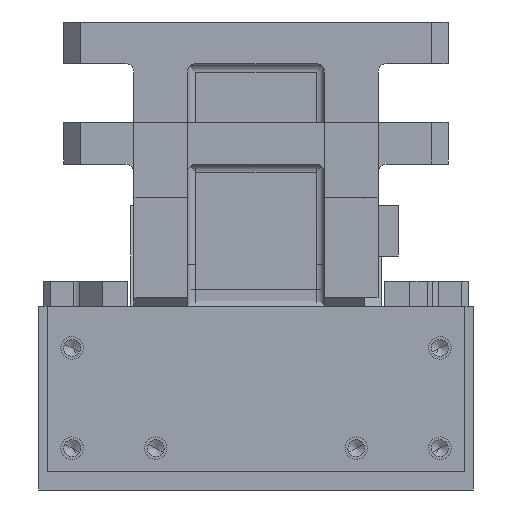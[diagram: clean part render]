
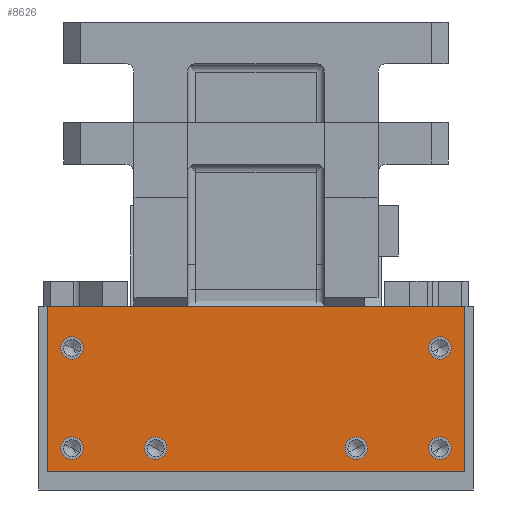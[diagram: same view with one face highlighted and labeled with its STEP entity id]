
A CAD part, left-side view. The second image highlights one B-rep face of the part: STEP entity #8626.
In plain terms, the highlighted planar face has unit normal (-1, 0, 0).
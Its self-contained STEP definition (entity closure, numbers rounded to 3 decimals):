
#6704=CARTESIAN_POINT('Vertex',(-12.,125.,110.)) ;
#6707=CARTESIAN_POINT('Line Origine',(-12.,0.,110.)) ;
#6711=CARTESIAN_POINT('Vertex',(-12.,-125.,110.)) ;
#8475=CARTESIAN_POINT('Vertex',(-12.,65.924,28.236)) ;
#8482=CARTESIAN_POINT('Vertex',(-12.,54.076,21.764)) ;
#8485=CARTESIAN_POINT('Axis2P3D Location',(-12.,60.,25.)) ;
#8497=CARTESIAN_POINT('Axis2P3D Location',(-12.,0.,0.)) ;
#8502=CARTESIAN_POINT('Line Origine',(-12.,125.,60.5)) ;
#8506=CARTESIAN_POINT('Vertex',(-12.,125.,11.)) ;
#8509=CARTESIAN_POINT('Line Origine',(-12.,0.,11.)) ;
#8513=CARTESIAN_POINT('Vertex',(-12.,-125.,11.)) ;
#8516=CARTESIAN_POINT('Line Origine',(-12.,-125.,60.5)) ;
#8527=CARTESIAN_POINT('Axis2P3D Location',(-12.,-110.,25.)) ;
#8531=CARTESIAN_POINT('Vertex',(-12.,-115.924,28.236)) ;
#8533=CARTESIAN_POINT('Vertex',(-12.,-104.076,21.764)) ;
#8536=CARTESIAN_POINT('Axis2P3D Location',(-12.,-110.,25.)) ;
#8545=CARTESIAN_POINT('Axis2P3D Location',(-12.,-110.,85.)) ;
#8549=CARTESIAN_POINT('Vertex',(-12.,-115.924,88.236)) ;
#8551=CARTESIAN_POINT('Vertex',(-12.,-104.076,81.764)) ;
#8554=CARTESIAN_POINT('Axis2P3D Location',(-12.,-110.,85.)) ;
#8563=CARTESIAN_POINT('Axis2P3D Location',(-12.,-60.,25.)) ;
#8567=CARTESIAN_POINT('Vertex',(-12.,-65.924,28.236)) ;
#8569=CARTESIAN_POINT('Vertex',(-12.,-54.076,21.764)) ;
#8572=CARTESIAN_POINT('Axis2P3D Location',(-12.,-60.,25.)) ;
#8581=CARTESIAN_POINT('Axis2P3D Location',(-12.,110.,25.)) ;
#8585=CARTESIAN_POINT('Vertex',(-12.,115.924,28.236)) ;
#8587=CARTESIAN_POINT('Vertex',(-12.,104.076,21.764)) ;
#8590=CARTESIAN_POINT('Axis2P3D Location',(-12.,110.,25.)) ;
#8599=CARTESIAN_POINT('Axis2P3D Location',(-12.,110.,85.)) ;
#8603=CARTESIAN_POINT('Vertex',(-12.,104.076,81.764)) ;
#8605=CARTESIAN_POINT('Vertex',(-12.,115.924,88.236)) ;
#8608=CARTESIAN_POINT('Axis2P3D Location',(-12.,110.,85.)) ;
#8617=CARTESIAN_POINT('Axis2P3D Location',(-12.,60.,25.)) ;
#6709=VECTOR('Line Direction',#6708,1.) ;
#8504=VECTOR('Line Direction',#8503,1.) ;
#8511=VECTOR('Line Direction',#8510,1.) ;
#8518=VECTOR('Line Direction',#8517,1.) ;
#6708=DIRECTION('Vector Direction',(0.,-1.,0.)) ;
#8486=DIRECTION('Axis2P3D Direction',(1.,0.,0.)) ;
#8498=DIRECTION('Axis2P3D Direction',(-1.,-0.,0.)) ;
#8499=DIRECTION('Axis2P3D XDirection',(0.,-1.,0.)) ;
#8503=DIRECTION('Vector Direction',(0.,0.,-1.)) ;
#8510=DIRECTION('Vector Direction',(0.,1.,0.)) ;
#8517=DIRECTION('Vector Direction',(0.,0.,-1.)) ;
#8528=DIRECTION('Axis2P3D Direction',(-1.,-0.,0.)) ;
#8537=DIRECTION('Axis2P3D Direction',(-1.,-0.,0.)) ;
#8546=DIRECTION('Axis2P3D Direction',(-1.,-0.,0.)) ;
#8555=DIRECTION('Axis2P3D Direction',(-1.,-0.,0.)) ;
#8564=DIRECTION('Axis2P3D Direction',(-1.,-0.,0.)) ;
#8573=DIRECTION('Axis2P3D Direction',(-1.,-0.,0.)) ;
#8582=DIRECTION('Axis2P3D Direction',(-1.,-0.,0.)) ;
#8591=DIRECTION('Axis2P3D Direction',(-1.,-0.,0.)) ;
#8600=DIRECTION('Axis2P3D Direction',(-1.,-0.,0.)) ;
#8609=DIRECTION('Axis2P3D Direction',(-1.,-0.,0.)) ;
#8618=DIRECTION('Axis2P3D Direction',(-1.,-0.,0.)) ;
#8487=AXIS2_PLACEMENT_3D('Circle Axis2P3D',#8485,#8486,$) ;
#8500=AXIS2_PLACEMENT_3D('Plane Axis2P3D',#8497,#8498,#8499) ;
#8529=AXIS2_PLACEMENT_3D('Circle Axis2P3D',#8527,#8528,$) ;
#8538=AXIS2_PLACEMENT_3D('Circle Axis2P3D',#8536,#8537,$) ;
#8547=AXIS2_PLACEMENT_3D('Circle Axis2P3D',#8545,#8546,$) ;
#8556=AXIS2_PLACEMENT_3D('Circle Axis2P3D',#8554,#8555,$) ;
#8565=AXIS2_PLACEMENT_3D('Circle Axis2P3D',#8563,#8564,$) ;
#8574=AXIS2_PLACEMENT_3D('Circle Axis2P3D',#8572,#8573,$) ;
#8583=AXIS2_PLACEMENT_3D('Circle Axis2P3D',#8581,#8582,$) ;
#8592=AXIS2_PLACEMENT_3D('Circle Axis2P3D',#8590,#8591,$) ;
#8601=AXIS2_PLACEMENT_3D('Circle Axis2P3D',#8599,#8600,$) ;
#8610=AXIS2_PLACEMENT_3D('Circle Axis2P3D',#8608,#8609,$) ;
#8619=AXIS2_PLACEMENT_3D('Circle Axis2P3D',#8617,#8618,$) ;
#6710=LINE('Line',#6707,#6709) ;
#8505=LINE('Line',#8502,#8504) ;
#8512=LINE('Line',#8509,#8511) ;
#8519=LINE('Line',#8516,#8518) ;
#8488=CIRCLE('generated circle',#8487,6.75) ;
#8530=CIRCLE('generated circle',#8529,6.75) ;
#8539=CIRCLE('generated circle',#8538,6.75) ;
#8548=CIRCLE('generated circle',#8547,6.75) ;
#8557=CIRCLE('generated circle',#8556,6.75) ;
#8566=CIRCLE('generated circle',#8565,6.75) ;
#8575=CIRCLE('generated circle',#8574,6.75) ;
#8584=CIRCLE('generated circle',#8583,6.75) ;
#8593=CIRCLE('generated circle',#8592,6.75) ;
#8602=CIRCLE('generated circle',#8601,6.75) ;
#8611=CIRCLE('generated circle',#8610,6.75) ;
#8620=CIRCLE('generated circle',#8619,6.75) ;
#8501=PLANE('',#8500) ;
#8544=FACE_BOUND('',#8541,.T.) ;
#8562=FACE_BOUND('',#8559,.T.) ;
#8580=FACE_BOUND('',#8577,.T.) ;
#8598=FACE_BOUND('',#8595,.T.) ;
#8616=FACE_BOUND('',#8613,.T.) ;
#8625=FACE_BOUND('',#8622,.T.) ;
#6713=EDGE_CURVE('',#6705,#6712,#6710,.T.) ;
#8489=EDGE_CURVE('',#8483,#8476,#8488,.F.) ;
#8508=EDGE_CURVE('',#6705,#8507,#8505,.T.) ;
#8515=EDGE_CURVE('',#8514,#8507,#8512,.T.) ;
#8520=EDGE_CURVE('',#6712,#8514,#8519,.T.) ;
#8535=EDGE_CURVE('',#8532,#8534,#8530,.F.) ;
#8540=EDGE_CURVE('',#8534,#8532,#8539,.F.) ;
#8553=EDGE_CURVE('',#8550,#8552,#8548,.F.) ;
#8558=EDGE_CURVE('',#8552,#8550,#8557,.F.) ;
#8571=EDGE_CURVE('',#8568,#8570,#8566,.F.) ;
#8576=EDGE_CURVE('',#8570,#8568,#8575,.F.) ;
#8589=EDGE_CURVE('',#8586,#8588,#8584,.T.) ;
#8594=EDGE_CURVE('',#8588,#8586,#8593,.T.) ;
#8607=EDGE_CURVE('',#8604,#8606,#8602,.T.) ;
#8612=EDGE_CURVE('',#8606,#8604,#8611,.T.) ;
#8621=EDGE_CURVE('',#8476,#8483,#8620,.T.) ;
#8521=EDGE_LOOP('',(#8522,#8523,#8524,#8525)) ;
#8541=EDGE_LOOP('',(#8542,#8543)) ;
#8559=EDGE_LOOP('',(#8560,#8561)) ;
#8577=EDGE_LOOP('',(#8578,#8579)) ;
#8595=EDGE_LOOP('',(#8596,#8597)) ;
#8613=EDGE_LOOP('',(#8614,#8615)) ;
#8622=EDGE_LOOP('',(#8623,#8624)) ;
#8522=ORIENTED_EDGE('',*,*,#8508,.T.) ;
#8523=ORIENTED_EDGE('',*,*,#8515,.F.) ;
#8524=ORIENTED_EDGE('',*,*,#8520,.F.) ;
#8525=ORIENTED_EDGE('',*,*,#6713,.F.) ;
#8542=ORIENTED_EDGE('',*,*,#8535,.T.) ;
#8543=ORIENTED_EDGE('',*,*,#8540,.T.) ;
#8560=ORIENTED_EDGE('',*,*,#8553,.T.) ;
#8561=ORIENTED_EDGE('',*,*,#8558,.T.) ;
#8578=ORIENTED_EDGE('',*,*,#8571,.T.) ;
#8579=ORIENTED_EDGE('',*,*,#8576,.T.) ;
#8596=ORIENTED_EDGE('',*,*,#8589,.F.) ;
#8597=ORIENTED_EDGE('',*,*,#8594,.F.) ;
#8614=ORIENTED_EDGE('',*,*,#8607,.F.) ;
#8615=ORIENTED_EDGE('',*,*,#8612,.F.) ;
#8623=ORIENTED_EDGE('',*,*,#8621,.F.) ;
#8624=ORIENTED_EDGE('',*,*,#8489,.F.) ;
#6705=VERTEX_POINT('',#6704) ;
#6712=VERTEX_POINT('',#6711) ;
#8476=VERTEX_POINT('',#8475) ;
#8483=VERTEX_POINT('',#8482) ;
#8507=VERTEX_POINT('',#8506) ;
#8514=VERTEX_POINT('',#8513) ;
#8532=VERTEX_POINT('',#8531) ;
#8534=VERTEX_POINT('',#8533) ;
#8550=VERTEX_POINT('',#8549) ;
#8552=VERTEX_POINT('',#8551) ;
#8568=VERTEX_POINT('',#8567) ;
#8570=VERTEX_POINT('',#8569) ;
#8586=VERTEX_POINT('',#8585) ;
#8588=VERTEX_POINT('',#8587) ;
#8604=VERTEX_POINT('',#8603) ;
#8606=VERTEX_POINT('',#8605) ;
#8626=ADVANCED_FACE('base',(#8526,#8544,#8562,#8580,#8598,#8616,#8625),#8501,.T.) ;
#8526=FACE_OUTER_BOUND('',#8521,.T.) ;
